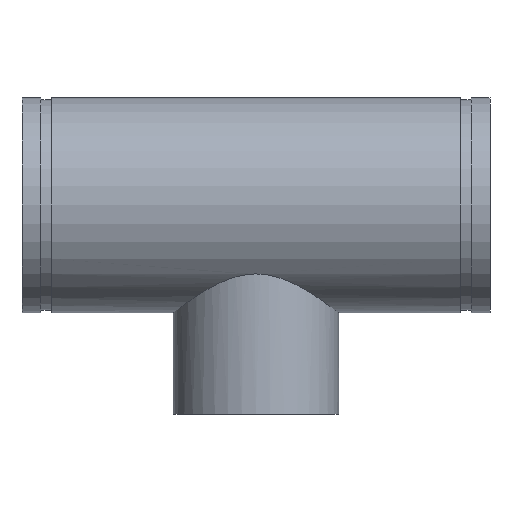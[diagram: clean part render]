
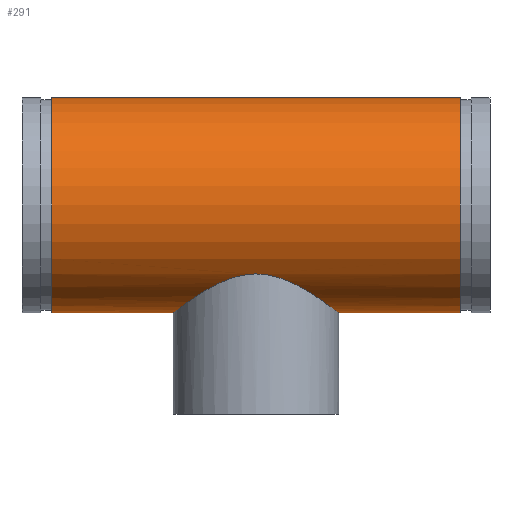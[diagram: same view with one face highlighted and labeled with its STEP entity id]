
A CAD part, top view. The second image highlights one B-rep face of the part: STEP entity #291.
In plain terms, the highlighted cylindrical face has radius 109.537 mm (diameter 219.075 mm), a full revolution.
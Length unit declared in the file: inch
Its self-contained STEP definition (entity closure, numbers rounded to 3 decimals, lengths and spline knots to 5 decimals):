
#45=B_SPLINE_CURVE_WITH_KNOTS('',3,(#511,#512,#513,#514,#515,#516,#517,
#518,#519,#520,#521,#522,#523,#524,#525,#526,#527,#528,#529,#530,#531,#532,
#533,#534,#535,#536,#537,#538,#539,#540,#541,#542,#543,#544,#545,#546,#547,
#548,#549,#550,#551,#552,#553,#554,#555,#556,#557,#558,#559,#560),
 .UNSPECIFIED.,.F.,.F.,(4,2,2,2,2,2,2,2,2,2,2,2,2,2,2,2,2,2,2,2,2,2,2,2,
4),(0.,1.70492,3.40983,5.11475,6.81966,
8.48329,10.14692,11.81055,13.47418,15.13781,
16.80144,18.46507,20.1287,21.83362,23.53853,
25.24345,26.94836,28.65328,30.35819,32.06311,
33.76802,35.43165,37.09528,38.75891,40.42254),
 .UNSPECIFIED.);
#46=B_SPLINE_CURVE_WITH_KNOTS('',3,(#561,#562,#563,#564,#565,#566,#567,
#568,#569,#570,#571,#572,#573,#574,#575,#576,#577,#578),.UNSPECIFIED.,.F.,
 .F.,(4,2,2,2,2,2,2,2,4),(40.42254,42.08617,43.7498,
45.41343,47.07706,48.78198,50.48689,52.19181,
53.89672),.UNSPECIFIED.);
#51=LINE('',#508,#59);
#59=VECTOR('',#410,4.3125);
#67=CYLINDRICAL_SURFACE('',#338,4.3125);
#77=FACE_BOUND('',#108,.T.);
#88=FACE_OUTER_BOUND('',#107,.T.);
#107=EDGE_LOOP('',(#221,#222,#223,#224));
#108=EDGE_LOOP('',(#225,#226));
#121=CIRCLE('',#321,4.3125);
#132=CIRCLE('',#337,4.3125);
#141=VERTEX_POINT('',#476);
#152=VERTEX_POINT('',#505);
#153=VERTEX_POINT('',#509);
#154=VERTEX_POINT('',#510);
#165=EDGE_CURVE('',#141,#141,#121,.T.);
#178=EDGE_CURVE('',#152,#152,#132,.T.);
#179=EDGE_CURVE('',#152,#141,#51,.T.);
#180=EDGE_CURVE('',#153,#154,#45,.T.);
#181=EDGE_CURVE('',#154,#153,#46,.T.);
#221=ORIENTED_EDGE('',*,*,#178,.T.);
#222=ORIENTED_EDGE('',*,*,#179,.T.);
#223=ORIENTED_EDGE('',*,*,#165,.T.);
#224=ORIENTED_EDGE('',*,*,#179,.F.);
#225=ORIENTED_EDGE('',*,*,#180,.F.);
#226=ORIENTED_EDGE('',*,*,#181,.F.);
#291=ADVANCED_FACE('',(#88,#77),#67,.T.);
#321=AXIS2_PLACEMENT_3D('',#477,#372,#373);
#337=AXIS2_PLACEMENT_3D('',#506,#406,#407);
#338=AXIS2_PLACEMENT_3D('',#507,#408,#409);
#372=DIRECTION('center_axis',(-1.,0.,0.));
#373=DIRECTION('ref_axis',(0.,-1.,0.));
#406=DIRECTION('center_axis',(1.,0.,0.));
#407=DIRECTION('ref_axis',(0.,-1.,0.));
#408=DIRECTION('center_axis',(-1.,0.,0.));
#409=DIRECTION('ref_axis',(0.,-1.,0.));
#410=DIRECTION('',(1.,0.,0.));
#476=CARTESIAN_POINT('',(8.192,4.3125,0.));
#477=CARTESIAN_POINT('Origin',(8.192,0.,0.));
#505=CARTESIAN_POINT('',(-8.192,4.3125,0.));
#506=CARTESIAN_POINT('Origin',(-8.192,0.,0.));
#507=CARTESIAN_POINT('Origin',(9.38,0.,0.));
#508=CARTESIAN_POINT('',(9.38,4.3125,0.));
#509=CARTESIAN_POINT('',(0.,-2.76134,-3.3125));
#510=CARTESIAN_POINT('',(-3.3125,-4.3125,0.));
#511=CARTESIAN_POINT('Ctrl Pts',(0.,-2.76134,
-3.3125));
#512=CARTESIAN_POINT('Ctrl Pts',(0.22374,-2.76134,-3.3125));
#513=CARTESIAN_POINT('Ctrl Pts',(0.44747,-2.78936,-3.28964));
#514=CARTESIAN_POINT('Ctrl Pts',(0.8824,-2.89118,-3.20052));
#515=CARTESIAN_POINT('Ctrl Pts',(1.09373,-2.9645,-3.13431));
#516=CARTESIAN_POINT('Ctrl Pts',(1.49486,-3.13474,-2.96404));
#517=CARTESIAN_POINT('Ctrl Pts',(1.68501,-3.23156,-2.85982));
#518=CARTESIAN_POINT('Ctrl Pts',(2.03681,-3.42816,-2.62093));
#519=CARTESIAN_POINT('Ctrl Pts',(2.19842,-3.52789,-2.48616));
#520=CARTESIAN_POINT('Ctrl Pts',(2.48268,-3.71177,-2.2019));
#521=CARTESIAN_POINT('Ctrl Pts',(2.61665,-3.80324,-2.04232));
#522=CARTESIAN_POINT('Ctrl Pts',(2.85644,-3.97203,-1.69076));
#523=CARTESIAN_POINT('Ctrl Pts',(2.96227,-4.04928,-1.49876));
#524=CARTESIAN_POINT('Ctrl Pts',(3.13483,-4.17718,-1.09276));
#525=CARTESIAN_POINT('Ctrl Pts',(3.20172,-4.2279,-0.87831));
#526=CARTESIAN_POINT('Ctrl Pts',(3.29057,-4.29558,-0.44109));
#527=CARTESIAN_POINT('Ctrl Pts',(3.3125,-4.3125,-0.21832));
#528=CARTESIAN_POINT('Ctrl Pts',(3.3125,-4.3125,0.21832));
#529=CARTESIAN_POINT('Ctrl Pts',(3.29057,-4.29558,0.44109));
#530=CARTESIAN_POINT('Ctrl Pts',(3.20172,-4.2279,0.87831));
#531=CARTESIAN_POINT('Ctrl Pts',(3.13483,-4.17718,1.09276));
#532=CARTESIAN_POINT('Ctrl Pts',(2.96227,-4.04928,1.49876));
#533=CARTESIAN_POINT('Ctrl Pts',(2.85644,-3.97203,1.69076));
#534=CARTESIAN_POINT('Ctrl Pts',(2.61665,-3.80324,2.04232));
#535=CARTESIAN_POINT('Ctrl Pts',(2.48268,-3.71177,2.2019));
#536=CARTESIAN_POINT('Ctrl Pts',(2.19842,-3.52789,2.48616));
#537=CARTESIAN_POINT('Ctrl Pts',(2.03681,-3.42816,2.62093));
#538=CARTESIAN_POINT('Ctrl Pts',(1.68501,-3.23156,2.85982));
#539=CARTESIAN_POINT('Ctrl Pts',(1.49486,-3.13474,2.96404));
#540=CARTESIAN_POINT('Ctrl Pts',(1.09373,-2.9645,3.13431));
#541=CARTESIAN_POINT('Ctrl Pts',(0.8824,-2.89118,3.20052));
#542=CARTESIAN_POINT('Ctrl Pts',(0.44747,-2.78936,3.28964));
#543=CARTESIAN_POINT('Ctrl Pts',(0.22374,-2.76134,3.3125));
#544=CARTESIAN_POINT('Ctrl Pts',(-0.22374,-2.76134,3.3125));
#545=CARTESIAN_POINT('Ctrl Pts',(-0.44747,-2.78936,3.28964));
#546=CARTESIAN_POINT('Ctrl Pts',(-0.8824,-2.89118,3.20052));
#547=CARTESIAN_POINT('Ctrl Pts',(-1.09373,-2.9645,3.13431));
#548=CARTESIAN_POINT('Ctrl Pts',(-1.49486,-3.13474,2.96404));
#549=CARTESIAN_POINT('Ctrl Pts',(-1.68501,-3.23156,2.85982));
#550=CARTESIAN_POINT('Ctrl Pts',(-2.03681,-3.42816,2.62093));
#551=CARTESIAN_POINT('Ctrl Pts',(-2.19842,-3.52789,2.48616));
#552=CARTESIAN_POINT('Ctrl Pts',(-2.48268,-3.71177,2.2019));
#553=CARTESIAN_POINT('Ctrl Pts',(-2.61665,-3.80324,2.04232));
#554=CARTESIAN_POINT('Ctrl Pts',(-2.85644,-3.97203,1.69076));
#555=CARTESIAN_POINT('Ctrl Pts',(-2.96227,-4.04928,1.49876));
#556=CARTESIAN_POINT('Ctrl Pts',(-3.13483,-4.17718,1.09276));
#557=CARTESIAN_POINT('Ctrl Pts',(-3.20172,-4.2279,0.87831));
#558=CARTESIAN_POINT('Ctrl Pts',(-3.29057,-4.29558,0.44109));
#559=CARTESIAN_POINT('Ctrl Pts',(-3.3125,-4.3125,0.21832));
#560=CARTESIAN_POINT('Ctrl Pts',(-3.3125,-4.3125,0.));
#561=CARTESIAN_POINT('Ctrl Pts',(-3.3125,-4.3125,0.));
#562=CARTESIAN_POINT('Ctrl Pts',(-3.3125,-4.3125,-0.21832));
#563=CARTESIAN_POINT('Ctrl Pts',(-3.29057,-4.29558,-0.44109));
#564=CARTESIAN_POINT('Ctrl Pts',(-3.20172,-4.2279,-0.87831));
#565=CARTESIAN_POINT('Ctrl Pts',(-3.13483,-4.17718,-1.09276));
#566=CARTESIAN_POINT('Ctrl Pts',(-2.96227,-4.04928,-1.49876));
#567=CARTESIAN_POINT('Ctrl Pts',(-2.85644,-3.97203,-1.69076));
#568=CARTESIAN_POINT('Ctrl Pts',(-2.61665,-3.80324,-2.04232));
#569=CARTESIAN_POINT('Ctrl Pts',(-2.48268,-3.71177,-2.2019));
#570=CARTESIAN_POINT('Ctrl Pts',(-2.19842,-3.52789,-2.48616));
#571=CARTESIAN_POINT('Ctrl Pts',(-2.03681,-3.42816,-2.62093));
#572=CARTESIAN_POINT('Ctrl Pts',(-1.68501,-3.23156,-2.85982));
#573=CARTESIAN_POINT('Ctrl Pts',(-1.49486,-3.13474,-2.96404));
#574=CARTESIAN_POINT('Ctrl Pts',(-1.09373,-2.9645,-3.13431));
#575=CARTESIAN_POINT('Ctrl Pts',(-0.8824,-2.89118,-3.20052));
#576=CARTESIAN_POINT('Ctrl Pts',(-0.44747,-2.78936,-3.28964));
#577=CARTESIAN_POINT('Ctrl Pts',(-0.22374,-2.76134,-3.3125));
#578=CARTESIAN_POINT('Ctrl Pts',(0.,-2.76134,
-3.3125));
